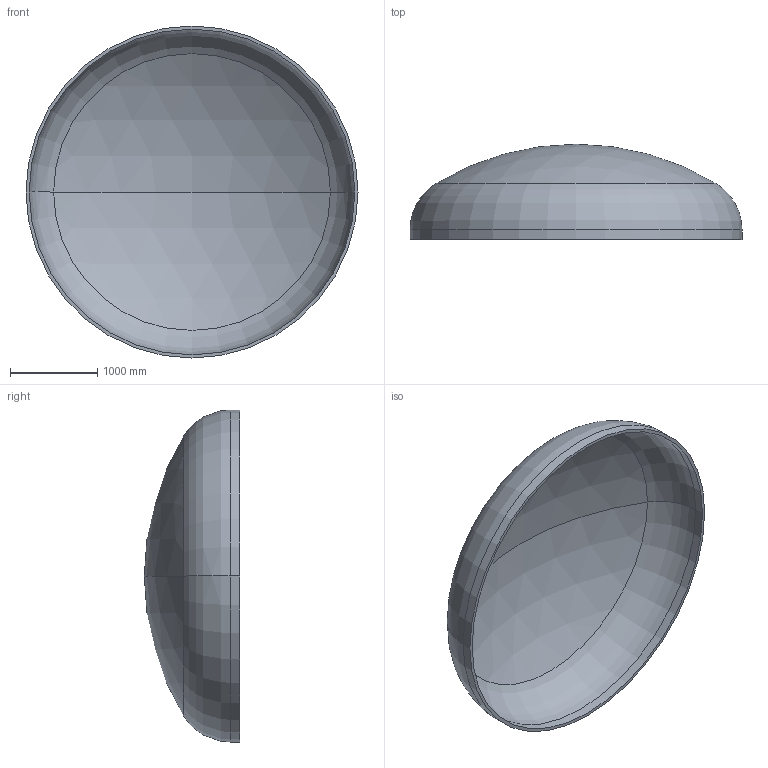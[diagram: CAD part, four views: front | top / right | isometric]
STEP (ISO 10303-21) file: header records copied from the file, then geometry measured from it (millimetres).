
FILE_DESCRIPTION (( 'STEP AP203' ), '1' );
FILE_NAME ('DIN 28013 Korbbogenform_-_Boden DIN 28013 - 3800 x 110 - I - s=36.step', '2016-07-01T21:19:51', ( '' ), ( '' ), 'SwSTEP 2.0', 'SolidWorks 2013', '' );
FILE_SCHEMA (( 'CONFIG_CONTROL_DESIGN' ));
Length unit declared in the file: millimetre
Products named in the file (1): DIN 28013 Korbbogenform_-_Boden DIN 28013 - 3800 x 110 - I - s=36
Bounding box: 3800 x 1090.48 x 3800 mm (x, y, z)
Volume: 605213491.7 mm3; surface area: 34051372 mm2
Topology: 1 solids, 1 shells, 13 faces, 24 edges, 14 vertices
Faces by surface type: torus 4, cylinder 4, sphere 4, plane 1
Entity records: 407 total; most frequent: DIRECTION 72, CARTESIAN_POINT 52, ORIENTED_EDGE 48, AXIS2_PLACEMENT_3D 34, EDGE_CURVE 24, CIRCLE 20, EDGE_LOOP 14, VERTEX_POINT 14
